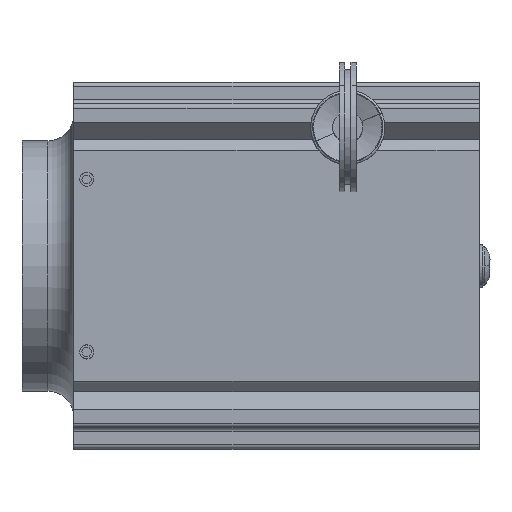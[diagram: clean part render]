
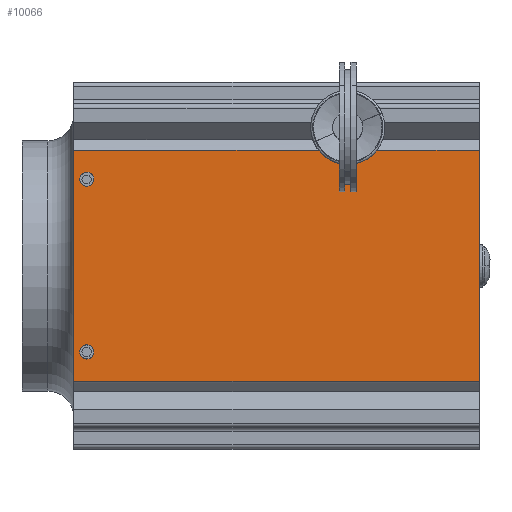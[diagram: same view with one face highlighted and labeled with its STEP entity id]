
A CAD part, top view. The second image highlights one B-rep face of the part: STEP entity #10066.
In plain terms, the highlighted planar face has unit normal (0, 0, 1).
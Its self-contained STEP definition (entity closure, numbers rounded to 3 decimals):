
#836=DIRECTION('',(0.,-1.,0.));
#837=VECTOR('',#836,53.5);
#838=CARTESIAN_POINT('',(0.,26.75,42.5));
#839=LINE('',#838,#837);
#1482=DIRECTION('',(1.,0.,0.));
#1483=VECTOR('',#1482,94.);
#1484=CARTESIAN_POINT('',(0.,-26.75,42.5));
#1485=LINE('',#1484,#1483);
#1490=CARTESIAN_POINT('',(3.,20.,42.5));
#1491=DIRECTION('',(0.,0.,1.));
#1492=DIRECTION('',(0.,1.,0.));
#1493=AXIS2_PLACEMENT_3D('',#1490,#1491,#1492);
#1495=CARTESIAN_POINT('',(3.,20.,42.5));
#1496=DIRECTION('',(0.,0.,1.));
#1497=DIRECTION('',(0.,-1.,0.));
#1498=AXIS2_PLACEMENT_3D('',#1495,#1496,#1497);
#1500=CARTESIAN_POINT('',(3.,-20.,42.5));
#1501=DIRECTION('',(0.,0.,1.));
#1502=DIRECTION('',(0.,1.,0.));
#1503=AXIS2_PLACEMENT_3D('',#1500,#1501,#1502);
#1505=CARTESIAN_POINT('',(3.,-20.,42.5));
#1506=DIRECTION('',(0.,0.,1.));
#1507=DIRECTION('',(0.,-1.,0.));
#1508=AXIS2_PLACEMENT_3D('',#1505,#1506,#1507);
#1510=CARTESIAN_POINT('',(63.5,32.,42.5));
#1511=DIRECTION('',(0.,0.,1.));
#1512=DIRECTION('',(0.,-1.,0.));
#1513=AXIS2_PLACEMENT_3D('',#1510,#1511,#1512);
#1515=DIRECTION('',(1.,0.,0.));
#1516=VECTOR('',#1515,27.808);
#1517=CARTESIAN_POINT('',(66.192,26.75,42.5));
#1518=LINE('',#1517,#1516);
#1519=DIRECTION('',(0.,-1.,0.));
#1520=VECTOR('',#1519,53.5);
#1521=CARTESIAN_POINT('',(94.,26.75,42.5));
#1522=LINE('',#1521,#1520);
#1523=DIRECTION('',(1.,0.,0.));
#1524=VECTOR('',#1523,60.808);
#1525=CARTESIAN_POINT('',(0.,26.75,42.5));
#1526=LINE('',#1525,#1524);
#1527=CARTESIAN_POINT('',(63.5,32.,42.5));
#1528=DIRECTION('',(0.,0.,1.));
#1529=DIRECTION('',(-0.456,-0.89,0.));
#1530=AXIS2_PLACEMENT_3D('',#1527,#1528,#1529);
#7136=CARTESIAN_POINT('',(63.5,26.1,42.5));
#7137=CARTESIAN_POINT('',(66.192,26.75,42.5));
#7138=VERTEX_POINT('',#7136);
#7139=VERTEX_POINT('',#7137);
#7144=CARTESIAN_POINT('',(60.808,26.75,42.5));
#7145=VERTEX_POINT('',#7144);
#7255=CARTESIAN_POINT('',(0.,26.75,42.5));
#7256=VERTEX_POINT('',#7255);
#7257=CARTESIAN_POINT('',(94.,26.75,42.5));
#7258=VERTEX_POINT('',#7257);
#7403=CARTESIAN_POINT('',(0.,-26.75,42.5));
#7404=VERTEX_POINT('',#7403);
#7529=CARTESIAN_POINT('',(94.,-26.75,42.5));
#7530=VERTEX_POINT('',#7529);
#7691=CARTESIAN_POINT('',(3.,21.65,42.5));
#7692=CARTESIAN_POINT('',(3.,18.35,42.5));
#7693=VERTEX_POINT('',#7691);
#7694=VERTEX_POINT('',#7692);
#7695=CARTESIAN_POINT('',(3.,-18.35,42.5));
#7696=CARTESIAN_POINT('',(3.,-21.65,42.5));
#7697=VERTEX_POINT('',#7695);
#7698=VERTEX_POINT('',#7696);
#10037=CARTESIAN_POINT('',(0.,-37.5,42.5));
#10038=DIRECTION('',(0.,0.,1.));
#10039=DIRECTION('',(0.,1.,0.));
#10040=AXIS2_PLACEMENT_3D('',#10037,#10038,#10039);
#10041=PLANE('',#10040);
#10043=ORIENTED_EDGE('',*,*,#10042,.T.);
#10045=ORIENTED_EDGE('',*,*,#10044,.T.);
#10046=ORIENTED_EDGE('',*,*,#9498,.T.);
#10047=ORIENTED_EDGE('',*,*,#10030,.F.);
#10048=ORIENTED_EDGE('',*,*,#9338,.F.);
#10050=ORIENTED_EDGE('',*,*,#10049,.T.);
#10052=ORIENTED_EDGE('',*,*,#10051,.T.);
#10053=EDGE_LOOP('',(#10043,#10045,#10046,#10047,#10048,#10050,#10052));
#10054=FACE_OUTER_BOUND('',#10053,.F.);
#10056=ORIENTED_EDGE('',*,*,#10055,.T.);
#10057=ORIENTED_EDGE('',*,*,#9160,.T.);
#10058=EDGE_LOOP('',(#10056,#10057));
#10059=FACE_BOUND('',#10058,.F.);
#10061=ORIENTED_EDGE('',*,*,#10060,.T.);
#10063=ORIENTED_EDGE('',*,*,#10062,.T.);
#10064=EDGE_LOOP('',(#10061,#10063));
#10065=FACE_BOUND('',#10064,.F.);
#10066=ADVANCED_FACE('',(#10054,#10059,#10065),#10041,.T.);
#1494=CIRCLE('',#1493,1.65);
#1499=CIRCLE('',#1498,1.65);
#1504=CIRCLE('',#1503,1.65);
#1509=CIRCLE('',#1508,1.65);
#1514=CIRCLE('',#1513,5.9);
#1531=CIRCLE('',#1530,5.9);
#9160=EDGE_CURVE('',#7694,#7693,#1499,.T.);
#9338=EDGE_CURVE('',#7256,#7404,#839,.T.);
#9498=EDGE_CURVE('',#7258,#7530,#1522,.T.);
#10030=EDGE_CURVE('',#7404,#7530,#1485,.T.);
#10042=EDGE_CURVE('',#7138,#7139,#1514,.T.);
#10044=EDGE_CURVE('',#7139,#7258,#1518,.T.);
#10049=EDGE_CURVE('',#7256,#7145,#1526,.T.);
#10051=EDGE_CURVE('',#7145,#7138,#1531,.T.);
#10055=EDGE_CURVE('',#7693,#7694,#1494,.T.);
#10060=EDGE_CURVE('',#7697,#7698,#1504,.T.);
#10062=EDGE_CURVE('',#7698,#7697,#1509,.T.);
